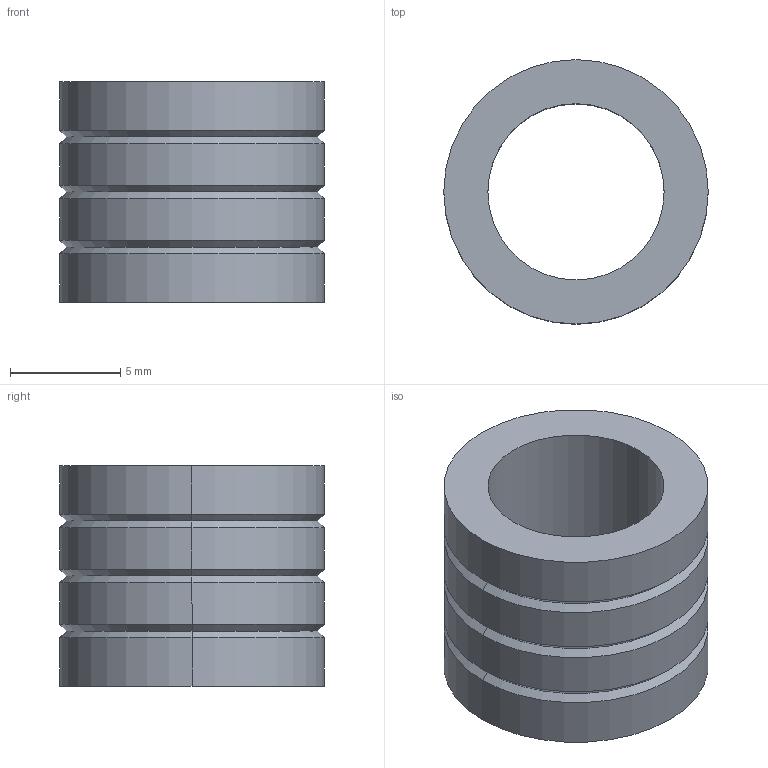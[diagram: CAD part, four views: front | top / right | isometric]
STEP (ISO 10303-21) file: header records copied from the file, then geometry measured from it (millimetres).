
FILE_DESCRIPTION(/* description */ (''),/* implementation_level */ '2;1');
FILE_NAME(/* name */ '3d_sgbl8-10_00001_r00.stp',/* time_stamp */ '2011-01-10T14:11:12+09:00',/* author */ ('MISUMI'),/* organization */ (''),/* preprocessor_version */ 'ST-DEVELOPER v11',/* originating_system */ 'UGS - NX 5.0',/* authorisation */ '');
FILE_SCHEMA (('CONFIG_CONTROL_DESIGN'));
Length unit declared in the file: millimetre
Products named in the file (1): 3d_sgbl8-10_00001_r00
Bounding box: 12 x 12 x 10 mm (x, y, z)
Volume: 618.3 mm3; surface area: 779.7 mm2
Topology: 1 solids, 1 shells, 24 faces, 48 edges, 26 vertices
Faces by surface type: cone 12, cylinder 10, plane 2
Entity records: 704 total; most frequent: DIRECTION 124, CARTESIAN_POINT 99, ORIENTED_EDGE 96, AXIS2_PLACEMENT_3D 51, EDGE_CURVE 48, EDGE_LOOP 26, VERTEX_POINT 26, CIRCLE 26
